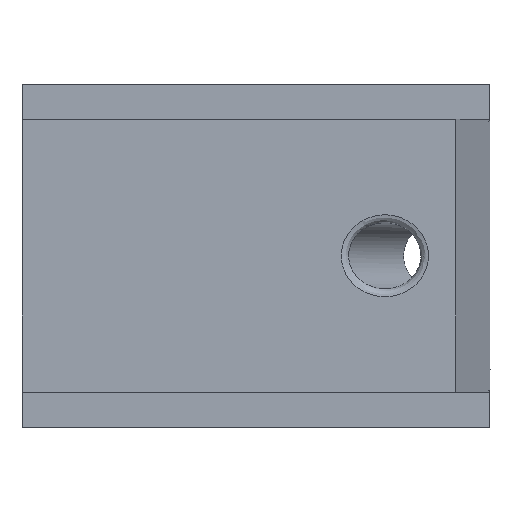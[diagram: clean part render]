
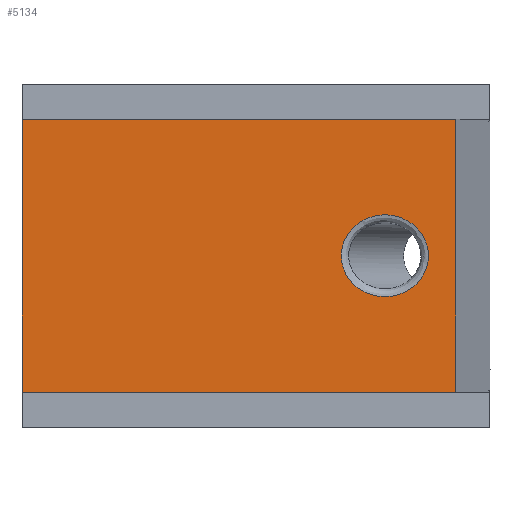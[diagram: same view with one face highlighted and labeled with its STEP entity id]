
A CAD part, top view. The second image highlights one B-rep face of the part: STEP entity #5134.
In plain terms, the highlighted planar face has unit normal (0, 0, 1).
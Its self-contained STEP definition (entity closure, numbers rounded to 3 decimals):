
#5 = DIRECTION ( 'NONE',  ( 1., 0., 0. ) ) ;
#67 = LINE ( 'NONE', #8544, #9536 ) ;
#130 = PLANE ( 'NONE',  #5732 ) ;
#421 = DIRECTION ( 'NONE',  ( 0., -1., 0. ) ) ;
#458 = EDGE_LOOP ( 'NONE', ( #10289 ) ) ;
#509 = CARTESIAN_POINT ( 'NONE',  ( 0., 17.5, 20. ) ) ;
#537 = VERTEX_POINT ( 'NONE', #5534 ) ;
#542 = LINE ( 'NONE', #11048, #2337 ) ;
#1677 = CARTESIAN_POINT ( 'NONE',  ( 0., 17.5, 20. ) ) ;
#1892 = VERTEX_POINT ( 'NONE', #11201 ) ;
#2049 = DIRECTION ( 'NONE',  ( -1., 0., 0. ) ) ;
#2117 = EDGE_CURVE ( 'NONE', #1892, #537, #4902, .T. ) ;
#2337 = VECTOR ( 'NONE', #421, 1000. ) ;
#3209 = CARTESIAN_POINT ( 'NONE',  ( 40.937, 10.5, 20. ) ) ;
#3633 = ORIENTED_EDGE ( 'NONE', *, *, #9246, .F. ) ;
#3905 = DIRECTION ( 'NONE',  ( 0., 0., -1. ) ) ;
#3917 = CARTESIAN_POINT ( 'NONE',  ( 0., -17.5, 20. ) ) ;
#4073 = VERTEX_POINT ( 'NONE', #11661 ) ;
#4135 = CARTESIAN_POINT ( 'NONE',  ( 40.937, -10.5, 20. ) ) ;
#4207 = VECTOR ( 'NONE', #4283, 1000. ) ;
#4283 = DIRECTION ( 'NONE',  ( 0., -1., 0. ) ) ;
#4902 = LINE ( 'NONE', #3917, #8614 ) ;
#5060 = CARTESIAN_POINT ( 'NONE',  ( 52.111, 0., 20. ) ) ;
#5134 = ADVANCED_FACE ( 'NONE', ( #5763, #9523 ), #130, .F. ) ;
#5349 = EDGE_LOOP ( 'NONE', ( #10434, #8846, #3633, #9146 ) ) ;
#5534 = CARTESIAN_POINT ( 'NONE',  ( 55.632, -17.5, 20. ) ) ;
#5732 = AXIS2_PLACEMENT_3D ( 'NONE', #11554, #3905, #2049 ) ;
#5763 = FACE_BOUND ( 'NONE', #458, .T. ) ;
#6039 =( BOUNDED_CURVE ( )  B_SPLINE_CURVE ( 3, ( #5060, #8838, #4135, #7919, #3209, #11663, #6985 ),
 .UNSPECIFIED., .T., .F. ) 
 B_SPLINE_CURVE_WITH_KNOTS ( ( 4, 3, 4 ),
 ( 0., 3.142, 6.283 ),
 .UNSPECIFIED. ) 
 CURVE ( )  GEOMETRIC_REPRESENTATION_ITEM ( )  RATIONAL_B_SPLINE_CURVE ( ( 1., 0.333, 0.333, 1., 0.333, 0.333, 1. ) ) 
 REPRESENTATION_ITEM ( '' )  );
#6907 = EDGE_CURVE ( 'NONE', #4073, #4073, #6039, .T. ) ;
#6934 = EDGE_CURVE ( 'NONE', #11949, #537, #542, .T. ) ;
#6985 = CARTESIAN_POINT ( 'NONE',  ( 52.111, 0., 20. ) ) ;
#7758 = DIRECTION ( 'NONE',  ( 1., 0., 0. ) ) ;
#7919 = CARTESIAN_POINT ( 'NONE',  ( 40.937, 0., 20. ) ) ;
#8544 = CARTESIAN_POINT ( 'NONE',  ( 0., 17.5, 20. ) ) ;
#8614 = VECTOR ( 'NONE', #7758, 1000. ) ;
#8726 = CARTESIAN_POINT ( 'NONE',  ( 55.632, 17.5, 20. ) ) ;
#8838 = CARTESIAN_POINT ( 'NONE',  ( 52.111, -10.5, 20. ) ) ;
#8846 = ORIENTED_EDGE ( 'NONE', *, *, #6934, .F. ) ;
#8986 = LINE ( 'NONE', #509, #4207 ) ;
#9134 = EDGE_CURVE ( 'NONE', #10012, #1892, #8986, .T. ) ;
#9146 = ORIENTED_EDGE ( 'NONE', *, *, #9134, .T. ) ;
#9246 = EDGE_CURVE ( 'NONE', #10012, #11949, #67, .T. ) ;
#9523 = FACE_OUTER_BOUND ( 'NONE', #5349, .T. ) ;
#9536 = VECTOR ( 'NONE', #5, 1000. ) ;
#10012 = VERTEX_POINT ( 'NONE', #1677 ) ;
#10289 = ORIENTED_EDGE ( 'NONE', *, *, #6907, .T. ) ;
#10434 = ORIENTED_EDGE ( 'NONE', *, *, #2117, .T. ) ;
#11048 = CARTESIAN_POINT ( 'NONE',  ( 55.632, 17.5, 20. ) ) ;
#11201 = CARTESIAN_POINT ( 'NONE',  ( 0., -17.5, 20. ) ) ;
#11554 = CARTESIAN_POINT ( 'NONE',  ( 0., 17.5, 20. ) ) ;
#11661 = CARTESIAN_POINT ( 'NONE',  ( 52.111, 0., 20. ) ) ;
#11663 = CARTESIAN_POINT ( 'NONE',  ( 52.111, 10.5, 20. ) ) ;
#11949 = VERTEX_POINT ( 'NONE', #8726 ) ;
